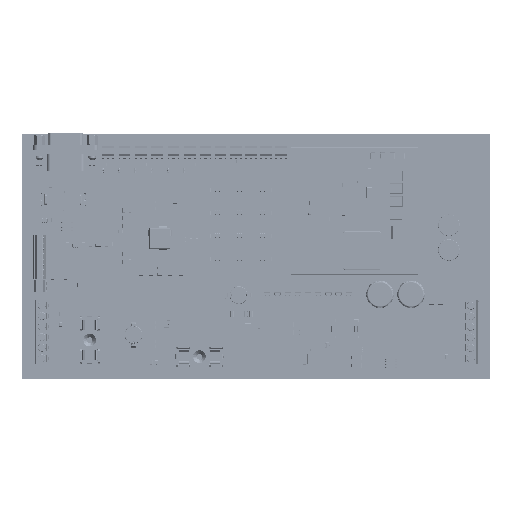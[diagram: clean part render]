
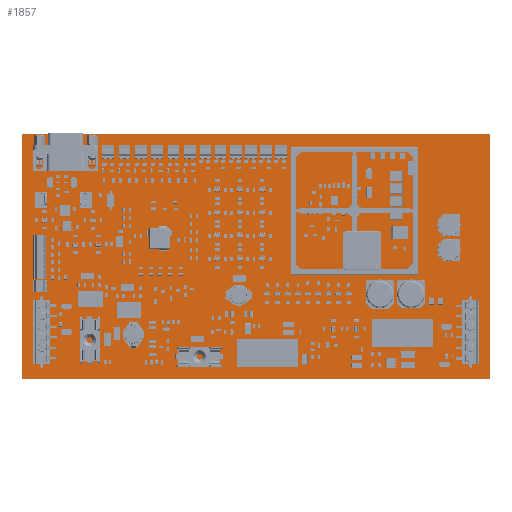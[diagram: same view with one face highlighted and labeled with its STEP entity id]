
A CAD part, top view. The second image highlights one B-rep face of the part: STEP entity #1857.
In plain terms, the highlighted planar face has unit normal (0, 0, 1).
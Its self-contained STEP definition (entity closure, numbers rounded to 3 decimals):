
#1728 = VERTEX_POINT('',#1729);
#1729 = CARTESIAN_POINT('',(1.05,16.4,1.768));
#1735 = EDGE_CURVE('',#1728,#1736,#1738,.T.);
#1736 = VERTEX_POINT('',#1737);
#1737 = CARTESIAN_POINT('',(1.05,132.5,1.768));
#1738 = LINE('',#1739,#1740);
#1739 = CARTESIAN_POINT('',(1.05,16.4,1.768));
#1740 = VECTOR('',#1741,1.);
#1741 = DIRECTION('',(0.,1.,0.));
#1766 = EDGE_CURVE('',#1736,#1767,#1769,.T.);
#1767 = VERTEX_POINT('',#1768);
#1768 = CARTESIAN_POINT('',(222.7,132.5,1.768));
#1769 = LINE('',#1770,#1771);
#1770 = CARTESIAN_POINT('',(1.05,132.5,1.768));
#1771 = VECTOR('',#1772,1.);
#1772 = DIRECTION('',(1.,0.,0.));
#1797 = EDGE_CURVE('',#1767,#1798,#1800,.T.);
#1798 = VERTEX_POINT('',#1799);
#1799 = CARTESIAN_POINT('',(222.7,16.4,1.768));
#1800 = LINE('',#1801,#1802);
#1801 = CARTESIAN_POINT('',(222.7,132.5,1.768));
#1802 = VECTOR('',#1803,1.);
#1803 = DIRECTION('',(0.,-1.,0.));
#1828 = EDGE_CURVE('',#1798,#1728,#1829,.T.);
#1829 = LINE('',#1830,#1831);
#1830 = CARTESIAN_POINT('',(222.7,16.4,1.768));
#1831 = VECTOR('',#1832,1.);
#1832 = DIRECTION('',(-1.,0.,0.));
#1857 = ADVANCED_FACE('',(#1858),#1864,.T.);
#1858 = FACE_BOUND('',#1859,.F.);
#1859 = EDGE_LOOP('',(#1860,#1861,#1862,#1863));
#1860 = ORIENTED_EDGE('',*,*,#1735,.T.);
#1861 = ORIENTED_EDGE('',*,*,#1766,.T.);
#1862 = ORIENTED_EDGE('',*,*,#1797,.T.);
#1863 = ORIENTED_EDGE('',*,*,#1828,.T.);
#1864 = PLANE('',#1865);
#1865 = AXIS2_PLACEMENT_3D('',#1866,#1867,#1868);
#1866 = CARTESIAN_POINT('',(1.05,16.4,1.768));
#1867 = DIRECTION('',(0.,0.,1.));
#1868 = DIRECTION('',(1.,0.,0.));
